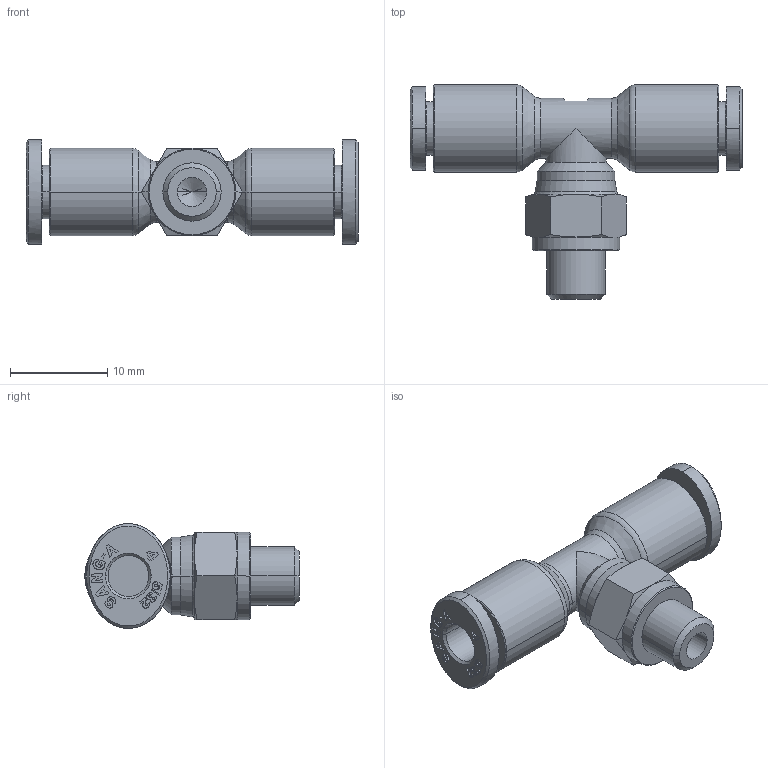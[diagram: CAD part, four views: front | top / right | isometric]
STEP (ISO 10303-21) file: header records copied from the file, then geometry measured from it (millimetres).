
FILE_DESCRIPTION((''),'2;1');
FILE_NAME('GPT 04M6(3D).stp','2012-12-26T18:52:19',(''),(''),'Mechanical Desktop.R8.0.24.0','Mechanical Desktop.R8.0.24.0',', , ');
FILE_SCHEMA(('CONFIG_CONTROL_DESIGN'));
Length unit declared in the file: millimetre
Products named in the file (2): GPT 04M6(3D); 睡ヶ1
Assembly tree (1 placements, depth 2):
  GPT 04M6(3D)
    睡ヶ1
Bounding box: 34.2 x 22.1 x 10.8 mm (x, y, z)
Volume: 2076.5 mm3; surface area: 2086.1 mm2
Topology: 1 solids, 1 shells, 833 faces, 2318 edges, 1521 vertices
Faces by surface type: plane 683, bspline 64, cone 42, cylinder 40, torus 4
Entity records: 27833 total; most frequent: CARTESIAN_POINT 6502, ORIENTED_EDGE 4632, DIRECTION 4072, EDGE_CURVE 2316, VECTOR 2022, LINE 2022, VERTEX_POINT 1521, AXIS2_PLACEMENT_3D 1025
